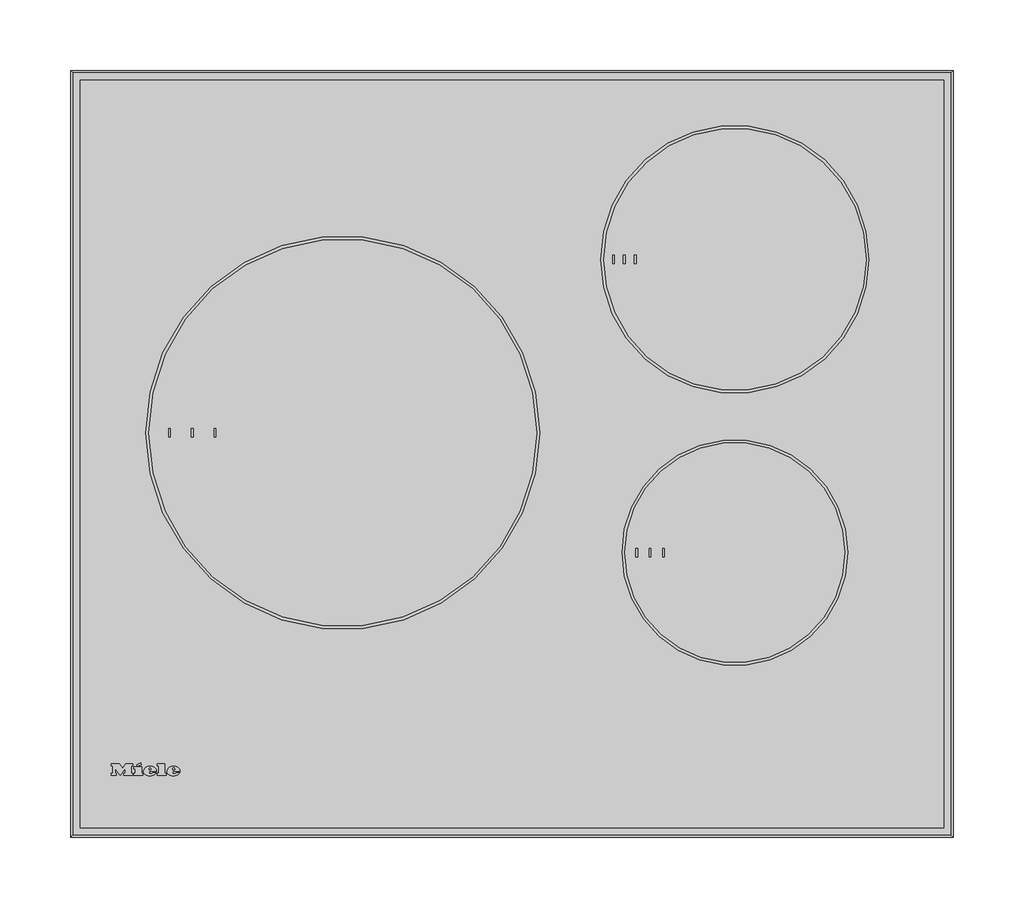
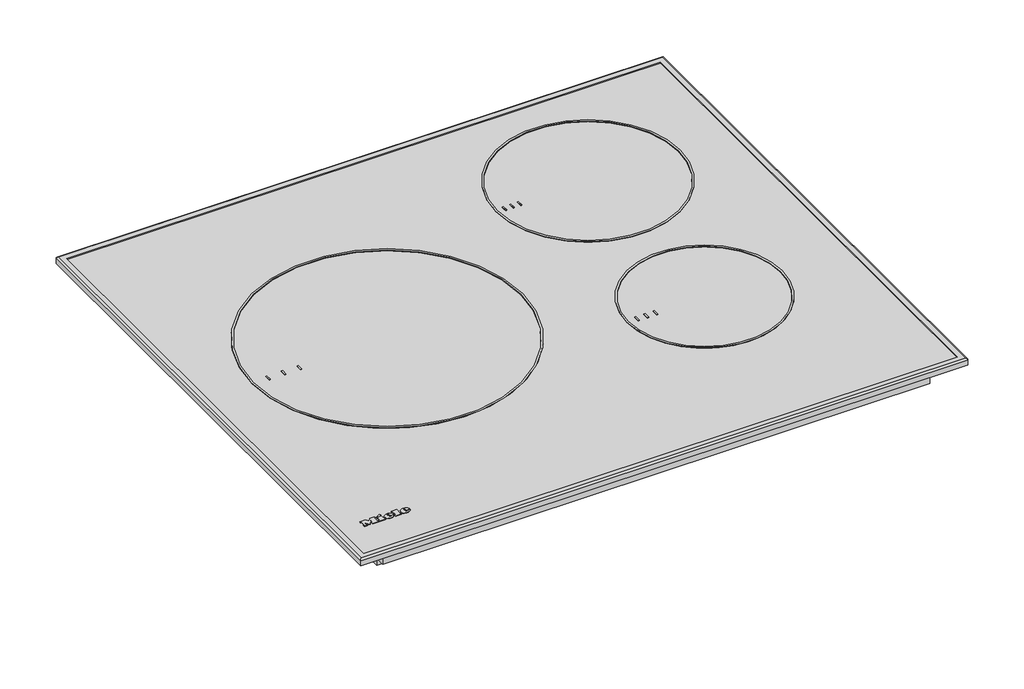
# Not in any storey: 1 proxy.
"""IFC4 building model written with IfcOpenShell, lengths in millimetres."""

from ifc_helpers import new_model, si_unit, origin, place, context, project, spatial, transform, mapped, element, save
from components import specialty_equipment_dd0addcc

model = new_model("IFC4")

# Units and contexts
model_context = context("Model", 3, world=origin())
ifc_project = project(units=[si_unit("LENGTHUNIT", "METRE", prefix="MILLI")], contexts=[model_context])

# Site, building
site = spatial("IfcSite", under=ifc_project)
building = spatial("IfcBuilding", under=site)

# Proxy
placement = place(None, origin())
specialty_equipment_shape = specialty_equipment_dd0addcc(model_context)
element("IfcBuildingElementProxy", 1, Name="12074190_USA_KM7720FR : 26772000_USA_12074190_KM7720FR", ObjectType="12074190_USA_KM7720FR : 26772000_USA_12074190_KM7720FR", at=placement, inside=building, context=model_context, shape_type="MappedRepresentation", body=[
    mapped(specialty_equipment_shape, transform((0.0, 0.0, 0.0), x_axis=(1.0, 0.0, 0.0), y_axis=(0.0, 1.0, 0.0), z_axis=(0.0, 0.0, 1.0))),
])

save(model, "model.ifc")
